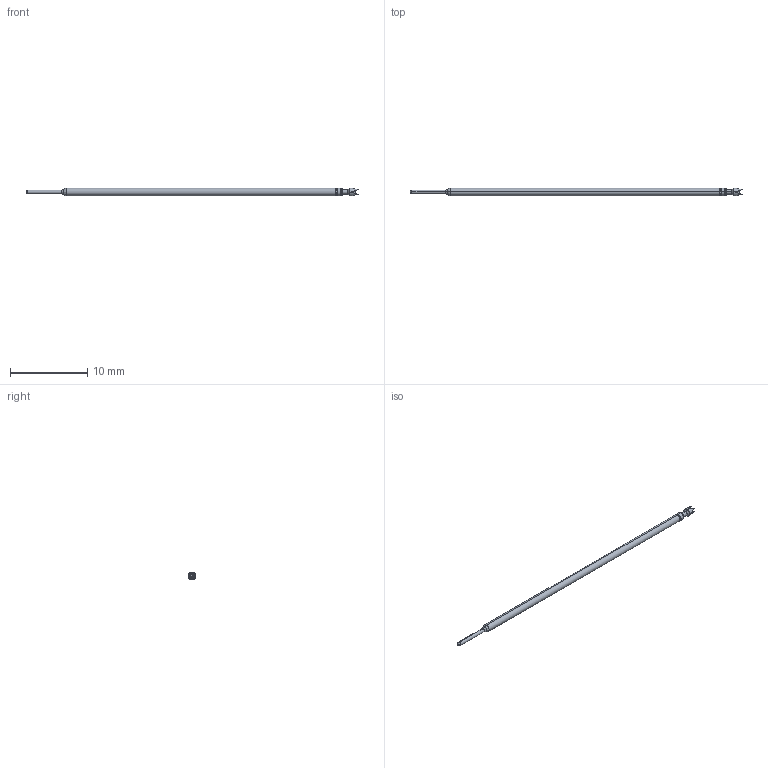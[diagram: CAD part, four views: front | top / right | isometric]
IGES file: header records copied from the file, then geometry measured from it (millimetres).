
Start section: SolidWorks IGES file using analytic representation for surfaces
Global section: file name: C:\Documents and Settings\mrumschlag\Desktop\changes\new\test\L FULL.IGS; native system: SolidWorks 2011; preprocessor: SolidWorks 2011; author: mrumschlag; date: 110630.163407; units: inch
Bounding box: 42.93 x 1.02 x 1.02 mm (x, y, z)
Surface area: 123.5 mm2 (no closed solid volume)
Topology: 0 solids, 0 shells, 37 faces, 194 edges, 192 vertices
Faces by surface type: revolution 20, bspline 17
